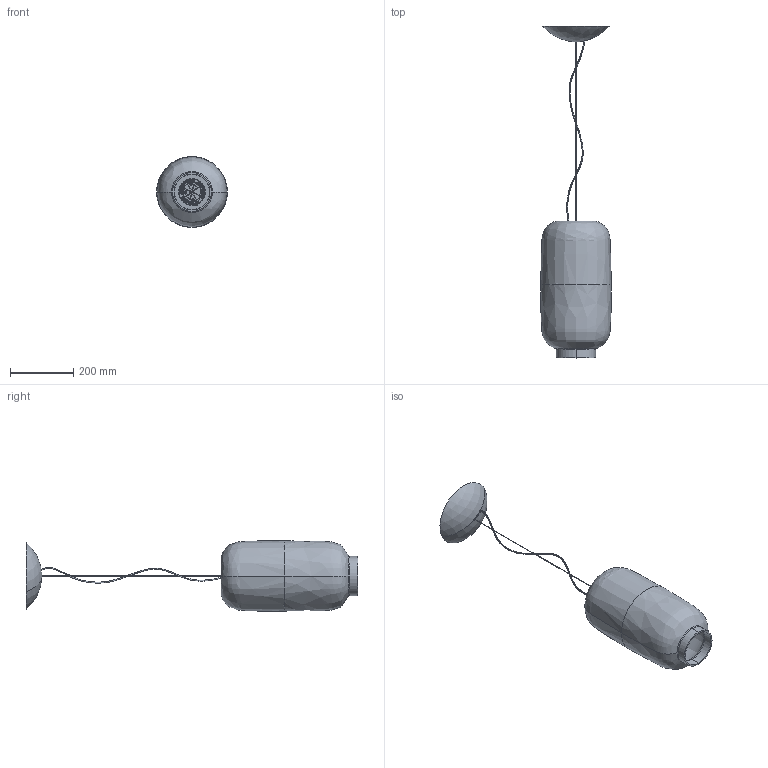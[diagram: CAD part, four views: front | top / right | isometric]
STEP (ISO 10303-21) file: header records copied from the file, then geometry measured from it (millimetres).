
FILE_DESCRIPTION (( 'STEP AP214' ), '1' );
FILE_NAME ('210_2_S_LD_3D.STEP', '2021-05-19T12:35:28', ( '' ), ( '' ), 'SwSTEP 2.0', 'SolidWorks 2021', '' );
FILE_SCHEMA (( 'AUTOMOTIVE_DESIGN' ));
Length unit declared in the file: millimetre
Products named in the file (1): 210_2_S_LD_3D
Bounding box: 224 x 1051.12 x 224 mm (x, y, z)
Volume: 2469627.8 mm3; surface area: 718072.6 mm2
Topology: 7 solids, 7 shells, 1343 faces, 3462 edges, 2100 vertices
Faces by surface type: bspline 485, plane 342, cylinder 206, torus 173, cone 103, sphere 34
Entity records: 69210 total; most frequent: CARTESIAN_POINT 26336, ORIENTED_EDGE 6776, DIRECTION 4635, EDGE_CURVE 3388, VERTEX_POINT 2100, AXIS2_PLACEMENT_3D 1907, EDGE_LOOP 1416, B_SPLINE_CURVE_WITH_KNOTS 1366
